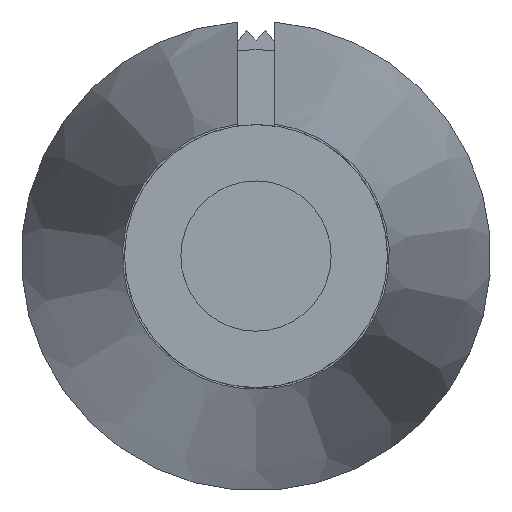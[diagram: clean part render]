
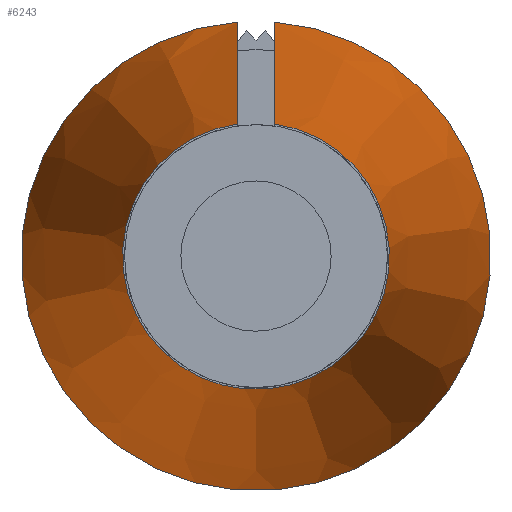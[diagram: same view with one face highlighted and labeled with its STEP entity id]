
A CAD part, left-side view. The second image highlights one B-rep face of the part: STEP entity #6243.
In plain terms, the highlighted conical face has half-angle 8.771 degrees and reference radius 4.9 mm.
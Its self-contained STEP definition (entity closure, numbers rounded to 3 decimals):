
#31=(
BOUNDED_CURVE()
B_SPLINE_CURVE(2,(#10771,#10772,#10773),.UNSPECIFIED.,.F.,.F.)
B_SPLINE_CURVE_WITH_KNOTS((3,3),(0.,1.771),.UNSPECIFIED.)
CURVE()
GEOMETRIC_REPRESENTATION_ITEM()
RATIONAL_B_SPLINE_CURVE((1.,1.041,1.))
REPRESENTATION_ITEM('')
);
#32=(
BOUNDED_CURVE()
B_SPLINE_CURVE(2,(#10778,#10779,#10780),.UNSPECIFIED.,.F.,.F.)
B_SPLINE_CURVE_WITH_KNOTS((3,3),(0.,1.771),.UNSPECIFIED.)
CURVE()
GEOMETRIC_REPRESENTATION_ITEM()
RATIONAL_B_SPLINE_CURVE((1.,1.041,1.))
REPRESENTATION_ITEM('')
);
#89=CONICAL_SURFACE('',#6946,4.9,0.153);
#1779=FACE_OUTER_BOUND('',#2109,.T.);
#2109=EDGE_LOOP('',(#5659,#5660,#5661,#5662));
#2365=CIRCLE('',#6943,3.55);
#2367=CIRCLE('',#6947,6.25);
#2970=VERTEX_POINT('',#10768);
#2971=VERTEX_POINT('',#10770);
#2972=VERTEX_POINT('',#10776);
#2973=VERTEX_POINT('',#10777);
#3868=EDGE_CURVE('',#2971,#2970,#31,.T.);
#3870=EDGE_CURVE('',#2972,#2973,#32,.T.);
#3877=EDGE_CURVE('',#2973,#2971,#2365,.T.);
#3879=EDGE_CURVE('',#2972,#2970,#2367,.T.);
#5659=ORIENTED_EDGE('',*,*,#3870,.T.);
#5660=ORIENTED_EDGE('',*,*,#3877,.T.);
#5661=ORIENTED_EDGE('',*,*,#3868,.T.);
#5662=ORIENTED_EDGE('',*,*,#3879,.F.);
#6243=ADVANCED_FACE('',(#1779),#89,.T.);
#6943=AXIS2_PLACEMENT_3D('',#10792,#8690,#8691);
#6946=AXIS2_PLACEMENT_3D('',#10795,#8696,#8697);
#6947=AXIS2_PLACEMENT_3D('',#10796,#8698,#8699);
#8690=DIRECTION('center_axis',(1.,0.,0.));
#8691=DIRECTION('ref_axis',(0.,0.,-1.));
#8696=DIRECTION('center_axis',(1.,0.,0.));
#8697=DIRECTION('ref_axis',(0.,0.,-1.));
#8698=DIRECTION('center_axis',(1.,0.,0.));
#8699=DIRECTION('ref_axis',(0.,0.,-1.));
#10768=CARTESIAN_POINT('',(-12.5,0.5,6.23));
#10770=CARTESIAN_POINT('',(-30.,0.5,3.515));
#10771=CARTESIAN_POINT('Ctrl Pts',(-30.,0.5,3.515));
#10772=CARTESIAN_POINT('Ctrl Pts',(-23.688,0.5,4.498));
#10773=CARTESIAN_POINT('Ctrl Pts',(-12.5,0.5,6.23));
#10776=CARTESIAN_POINT('',(-12.5,-0.5,6.23));
#10777=CARTESIAN_POINT('',(-30.,-0.5,3.515));
#10778=CARTESIAN_POINT('Ctrl Pts',(-12.5,-0.5,6.23));
#10779=CARTESIAN_POINT('Ctrl Pts',(-23.688,-0.5,
4.498));
#10780=CARTESIAN_POINT('Ctrl Pts',(-30.,-0.5,3.515));
#10792=CARTESIAN_POINT('Origin',(-30.,0.,0.));
#10795=CARTESIAN_POINT('Origin',(-21.25,0.,0.));
#10796=CARTESIAN_POINT('Origin',(-12.5,0.,0.));
